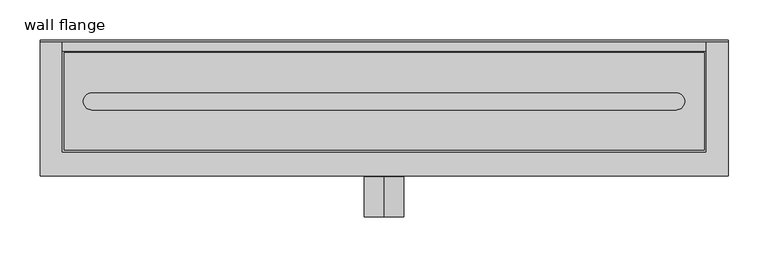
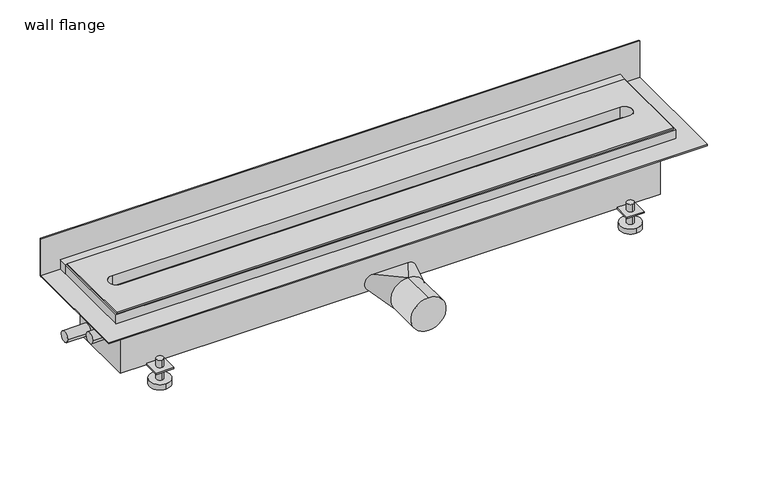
"""IFC4 building model written with IfcOpenShell, lengths in millimetres: sanitary terminal geometry, PF_ST_showerdrain X_Aco : wall flange."""

from ifc_helpers import new_model, si_unit, point, frame, frame_2d, origin, origin_with_axes, place, context, project, spatial, polyline, circle_curve, trimmed, segment, composite_curve, outline, extrude, faceted_brep, source, transform, mapped, element, save
from ifc_brep_helpers import plane_surface, cylinder_surface, spline_surface, advanced_brep


def wall_flange_291a86f9(model_context):
    return source(origin(), model_context, "Body", "SolidModel", [
        advanced_brep(
        [(-338.0, 67.0, -73.0), (-338.0, 57.0, -73.0), (-338.0, 77.0, -111.0), (-338.0, 47.0, -111.0), (-338.0, 67.0, -103.0), (-338.0, 57.0, -103.0), (-338.0, 77.0, -103.0), (-338.0, 47.0, -103.0)],
        [
            (0, 1, circle_curve(frame((-338.0, 62.0, -73.0), z_axis=(0.0, 0.0, 1.0), x_axis=(0.0, -1.0, 0.0)), 5.0)),
            (1, 0, circle_curve(frame((-338.0, 62.0, -73.0), z_axis=(0.0, 0.0, 1.0), x_axis=(0.0, -1.0, 0.0)), 5.0)),
            (2, 3, circle_curve(frame((-338.0, 62.0, -111.0), z_axis=(0.0, 0.0, -1.0), x_axis=(0.0, -1.0, 0.0)), 15.0)),
            (3, 2, circle_curve(frame((-338.0, 62.0, -111.0), z_axis=(0.0, 0.0, -1.0), x_axis=(0.0, -1.0, 0.0)), 15.0)),
            (0, 4),
            (4, 5, circle_curve(frame((-338.0, 62.0, -103.0), z_axis=(0.0, 0.0, 1.0), x_axis=(0.0, -1.0, 0.0)), 5.0)),
            (5, 1),
            (5, 4, circle_curve(frame((-338.0, 62.0, -103.0), z_axis=(0.0, 0.0, 1.0), x_axis=(0.0, -1.0, 0.0)), 5.0)),
            (6, 7, circle_curve(frame((-338.0, 62.0, -103.0), z_axis=(0.0, 0.0, 1.0), x_axis=(0.0, -1.0, 0.0)), 15.0)),
            (7, 6, circle_curve(frame((-338.0, 62.0, -103.0), z_axis=(0.0, 0.0, 1.0), x_axis=(0.0, -1.0, 0.0)), 15.0)),
            (6, 2),
            (3, 7),
        ],
        [
            plane_surface(frame((-338.0, 57.0, -73.0), z_axis=(0.0, 0.0, 1.0), x_axis=(1.0, 0.0, 0.0))),
            plane_surface(frame((-338.0, 57.0, -111.0), z_axis=(0.0, 0.0, -1.0), x_axis=(-1.0, 0.0, 0.0))),
            cylinder_surface(frame((-338.0, 62.0, -111.0), z_axis=(0.0, 0.0, 1.0), x_axis=(0.0, -1.0, 0.0)), 5.0),
            plane_surface(frame((-338.0, 47.0, -103.0), z_axis=(0.0, 0.0, 1.0), x_axis=(1.0, 0.0, 0.0))),
            cylinder_surface(frame((-338.0, 62.0, -111.0), z_axis=(0.0, 0.0, 1.0), x_axis=(0.0, -1.0, 0.0)), 15.0),
        ],
        [
            (0, [[1, 2]]),
            (1, [[3, 4]]),
            (2, [[-1, 5, 6, 7]]),
            (2, [[-2, -7, 8, -5]]),
            (3, [[9, 10], [-6, -8]]),
            (4, [[-9, 11, -4, 12]]),
            (4, [[-10, -12, -3, -11]]),
        ],
    ),
        advanced_brep(
        [(-338.0, -56.5, -73.0), (-338.0, -66.5, -73.0), (-338.0, -46.5, -111.0), (-338.0, -76.5, -111.0), (-338.0, -56.5, -103.0), (-338.0, -66.5, -103.0), (-338.0, -46.5, -103.0), (-338.0, -76.5, -103.0)],
        [
            (0, 1, circle_curve(frame((-338.0, -61.5, -73.0), z_axis=(0.0, 0.0, 1.0), x_axis=(0.0, -1.0, 0.0)), 5.0)),
            (1, 0, circle_curve(frame((-338.0, -61.5, -73.0), z_axis=(0.0, 0.0, 1.0), x_axis=(0.0, -1.0, 0.0)), 5.0)),
            (2, 3, circle_curve(frame((-338.0, -61.5, -111.0), z_axis=(0.0, 0.0, -1.0), x_axis=(0.0, -1.0, 0.0)), 15.0)),
            (3, 2, circle_curve(frame((-338.0, -61.5, -111.0), z_axis=(0.0, 0.0, -1.0), x_axis=(0.0, -1.0, 0.0)), 15.0)),
            (0, 4),
            (4, 5, circle_curve(frame((-338.0, -61.5, -103.0), z_axis=(0.0, 0.0, 1.0), x_axis=(0.0, -1.0, 0.0)), 5.0)),
            (5, 1),
            (5, 4, circle_curve(frame((-338.0, -61.5, -103.0), z_axis=(0.0, 0.0, 1.0), x_axis=(0.0, -1.0, 0.0)), 5.0)),
            (6, 7, circle_curve(frame((-338.0, -61.5, -103.0), z_axis=(0.0, 0.0, 1.0), x_axis=(0.0, -1.0, 0.0)), 15.0)),
            (7, 6, circle_curve(frame((-338.0, -61.5, -103.0), z_axis=(0.0, 0.0, 1.0), x_axis=(0.0, -1.0, 0.0)), 15.0)),
            (6, 2),
            (3, 7),
        ],
        [
            plane_surface(frame((-338.0, 57.0, -73.0), z_axis=(0.0, 0.0, 1.0), x_axis=(1.0, 0.0, 0.0))),
            plane_surface(frame((-338.0, 57.0, -111.0), z_axis=(0.0, 0.0, -1.0), x_axis=(-1.0, 0.0, 0.0))),
            cylinder_surface(frame((-338.0, -61.5, -111.0), z_axis=(0.0, 0.0, 1.0), x_axis=(0.0, -1.0, 0.0)), 5.0),
            plane_surface(frame((-338.0, 47.0, -103.0), z_axis=(0.0, 0.0, 1.0), x_axis=(1.0, 0.0, 0.0))),
            cylinder_surface(frame((-338.0, -61.5, -111.0), z_axis=(0.0, 0.0, 1.0), x_axis=(0.0, -1.0, 0.0)), 15.0),
        ],
        [
            (0, [[1, 2]]),
            (1, [[3, 4]]),
            (2, [[-1, 5, 6, 7]]),
            (2, [[-2, -7, 8, -5]]),
            (3, [[9, 10], [-6, -8]]),
            (4, [[-9, 11, -4, 12]]),
            (4, [[-10, -12, -3, -11]]),
        ],
    ),
        advanced_brep(
        [(338.0, 67.0, -73.0), (338.0, 57.0, -73.0), (338.0, 77.0, -111.0), (338.0, 47.0, -111.0), (338.0, 67.0, -103.0), (338.0, 57.0, -103.0), (338.0, 77.0, -103.0), (338.0, 47.0, -103.0)],
        [
            (0, 1, circle_curve(frame((338.0, 62.0, -73.0), z_axis=(0.0, 0.0, 1.0), x_axis=(0.0, -1.0, 0.0)), 5.0)),
            (1, 0, circle_curve(frame((338.0, 62.0, -73.0), z_axis=(0.0, 0.0, 1.0), x_axis=(0.0, -1.0, 0.0)), 5.0)),
            (2, 3, circle_curve(frame((338.0, 62.0, -111.0), z_axis=(0.0, 0.0, -1.0), x_axis=(0.0, -1.0, 0.0)), 15.0)),
            (3, 2, circle_curve(frame((338.0, 62.0, -111.0), z_axis=(0.0, 0.0, -1.0), x_axis=(0.0, -1.0, 0.0)), 15.0)),
            (0, 4),
            (4, 5, circle_curve(frame((338.0, 62.0, -103.0), z_axis=(0.0, 0.0, 1.0), x_axis=(0.0, -1.0, 0.0)), 5.0)),
            (5, 1),
            (5, 4, circle_curve(frame((338.0, 62.0, -103.0), z_axis=(0.0, 0.0, 1.0), x_axis=(0.0, -1.0, 0.0)), 5.0)),
            (6, 7, circle_curve(frame((338.0, 62.0, -103.0), z_axis=(0.0, 0.0, 1.0), x_axis=(0.0, -1.0, 0.0)), 15.0)),
            (7, 6, circle_curve(frame((338.0, 62.0, -103.0), z_axis=(0.0, 0.0, 1.0), x_axis=(0.0, -1.0, 0.0)), 15.0)),
            (6, 2),
            (3, 7),
        ],
        [
            plane_surface(frame((-338.0, 57.0, -73.0), z_axis=(0.0, 0.0, 1.0), x_axis=(1.0, 0.0, 0.0))),
            plane_surface(frame((-338.0, 57.0, -111.0), z_axis=(0.0, 0.0, -1.0), x_axis=(-1.0, 0.0, 0.0))),
            cylinder_surface(frame((338.0, 62.0, -111.0), z_axis=(0.0, 0.0, 1.0), x_axis=(0.0, -1.0, 0.0)), 5.0),
            plane_surface(frame((-338.0, 47.0, -103.0), z_axis=(0.0, 0.0, 1.0), x_axis=(1.0, 0.0, 0.0))),
            cylinder_surface(frame((338.0, 62.0, -111.0), z_axis=(0.0, 0.0, 1.0), x_axis=(0.0, -1.0, 0.0)), 15.0),
        ],
        [
            (0, [[1, 2]]),
            (1, [[3, 4]]),
            (2, [[-1, 5, 6, 7]]),
            (2, [[-2, -7, 8, -5]]),
            (3, [[9, 10], [-6, -8]]),
            (4, [[-9, 11, -4, 12]]),
            (4, [[-10, -12, -3, -11]]),
        ],
    ),
        advanced_brep(
        [(338.0, -56.5, -73.0), (338.0, -66.5, -73.0), (338.0, -46.5, -111.0), (338.0, -76.5, -111.0), (338.0, -56.5, -103.0), (338.0, -66.5, -103.0), (338.0, -46.5, -103.0), (338.0, -76.5, -103.0)],
        [
            (0, 1, circle_curve(frame((338.0, -61.5, -73.0), z_axis=(0.0, 0.0, 1.0), x_axis=(0.0, -1.0, 0.0)), 5.0)),
            (1, 0, circle_curve(frame((338.0, -61.5, -73.0), z_axis=(0.0, 0.0, 1.0), x_axis=(0.0, -1.0, 0.0)), 5.0)),
            (2, 3, circle_curve(frame((338.0, -61.5, -111.0), z_axis=(0.0, 0.0, -1.0), x_axis=(0.0, -1.0, 0.0)), 15.0)),
            (3, 2, circle_curve(frame((338.0, -61.5, -111.0), z_axis=(0.0, 0.0, -1.0), x_axis=(0.0, -1.0, 0.0)), 15.0)),
            (0, 4),
            (4, 5, circle_curve(frame((338.0, -61.5, -103.0), z_axis=(0.0, 0.0, 1.0), x_axis=(0.0, -1.0, 0.0)), 5.0)),
            (5, 1),
            (5, 4, circle_curve(frame((338.0, -61.5, -103.0), z_axis=(0.0, 0.0, 1.0), x_axis=(0.0, -1.0, 0.0)), 5.0)),
            (6, 7, circle_curve(frame((338.0, -61.5, -103.0), z_axis=(0.0, 0.0, 1.0), x_axis=(0.0, -1.0, 0.0)), 15.0)),
            (7, 6, circle_curve(frame((338.0, -61.5, -103.0), z_axis=(0.0, 0.0, 1.0), x_axis=(0.0, -1.0, 0.0)), 15.0)),
            (6, 2),
            (3, 7),
        ],
        [
            plane_surface(frame((-338.0, 57.0, -73.0), z_axis=(0.0, 0.0, 1.0), x_axis=(1.0, 0.0, 0.0))),
            plane_surface(frame((-338.0, 57.0, -111.0), z_axis=(0.0, 0.0, -1.0), x_axis=(-1.0, 0.0, 0.0))),
            cylinder_surface(frame((338.0, -61.5, -111.0), z_axis=(0.0, 0.0, 1.0), x_axis=(0.0, -1.0, 0.0)), 5.0),
            plane_surface(frame((-338.0, 47.0, -103.0), z_axis=(0.0, 0.0, 1.0), x_axis=(1.0, 0.0, 0.0))),
            cylinder_surface(frame((338.0, -61.5, -111.0), z_axis=(0.0, 0.0, 1.0), x_axis=(0.0, -1.0, 0.0)), 15.0),
        ],
        [
            (0, [[1, 2]]),
            (1, [[3, 4]]),
            (2, [[-1, 5, 6, 7]]),
            (2, [[-2, -7, 8, -5]]),
            (3, [[9, 10], [-6, -8]]),
            (4, [[-9, 11, -4, 12]]),
            (4, [[-10, -12, -3, -11]]),
        ],
    ),
        extrude(outline(polyline([(402.0, 75.0), (402.0, 63.0), (-402.0, 63.0), (-402.0, 75.0), (402.0, 75.0)])), frame((0.0, 0.0, 2.0), z_axis=(0.0, 0.0, 1.0), x_axis=(1.0, 0.0, 0.0)), (0.0, 0.0, 1.0), 14.0),
        extrude(outline(polyline([(430.0, 75.0), (-430.0, 75.0), (-430.0, 77.0), (430.0, 77.0), (430.0, 75.0)])), origin_with_axes(), (0.0, 0.0, 1.0), 57.0),
        advanced_brep(
        [(388.0, 50.0, -86.0), (388.0, -49.0, -86.0), (350.5, -49.0, -86.0), (350.5, -74.0, -86.0), (325.5, -74.0, -86.0), (325.5, -49.0, -86.0), (-325.5, -49.0, -86.0), (-325.5, -74.0, -86.0), (-350.5, -74.0, -86.0), (-350.5, -49.0, -86.0), (-388.0, -49.0, -86.0), (-388.0, 50.0, -86.0), (-350.5, 50.0, -86.0), (-350.5, 74.0, -86.0), (-325.5, 74.0, -86.0), (-325.5, 50.0, -86.0), (325.5, 50.0, -86.0), (325.5, 74.0, -86.0), (350.5, 74.0, -86.0), (350.5, 50.0, -86.0), (388.0, 50.0, -8.0), (-388.0, 50.0, -8.0), (-388.0, -49.0, -8.0), (388.0, -49.0, -8.0), (350.5, 50.0, -84.0), (325.5, 50.0, -84.0), (-325.5, 50.0, -84.0), (-350.5, 50.0, -84.0), (-388.0, 39.85, -68.0), (-388.0, 24.15, -68.0), (-388.0, -22.15, -32.0), (-388.0, -37.85, -32.0), (-350.5, -49.0, -84.0), (-325.5, -49.0, -84.0), (325.5, -49.0, -84.0), (350.5, -49.0, -84.0), (-421.0, 39.85, -68.0), (-421.0, 24.15, -68.0), (-421.0, -22.15, -32.0), (-421.0, -37.85, -32.0), (-325.5, 74.0, -84.0), (-350.5, 74.0, -84.0), (350.5, 74.0, -84.0), (325.5, 74.0, -84.0), (350.5, -74.0, -84.0), (325.5, -74.0, -84.0), (-350.5, -74.0, -84.0), (-325.5, -74.0, -84.0)],
        [
            (0, 1),
            (1, 2),
            (2, 3),
            (3, 4),
            (4, 5),
            (5, 6),
            (6, 7),
            (7, 8),
            (8, 9),
            (9, 10),
            (10, 11),
            (11, 12),
            (12, 13),
            (13, 14),
            (14, 15),
            (15, 16),
            (16, 17),
            (17, 18),
            (18, 19),
            (19, 0),
            (20, 21),
            (21, 22),
            (22, 23),
            (23, 20),
            (20, 0),
            (19, 24),
            (24, 25),
            (25, 16),
            (15, 26),
            (26, 27),
            (27, 12),
            (11, 21),
            (10, 22),
            (28, 29, circle_curve(frame((-388.0, 32.0, -68.0), z_axis=(1.0, 0.0, 0.0), x_axis=(0.0, -1.0, 0.0)), 7.85)),
            (29, 28, circle_curve(frame((-388.0, 32.0, -68.0), z_axis=(1.0, 0.0, 0.0), x_axis=(0.0, -1.0, 0.0)), 7.85)),
            (30, 31, circle_curve(frame((-388.0, -30.0, -32.0), z_axis=(1.0, 0.0, 0.0), x_axis=(0.0, -1.0, 0.0)), 7.85)),
            (31, 30, circle_curve(frame((-388.0, -30.0, -32.0), z_axis=(1.0, 0.0, 0.0), x_axis=(0.0, -1.0, 0.0)), 7.85)),
            (9, 32),
            (32, 33),
            (33, 6),
            (5, 34),
            (34, 35),
            (35, 2),
            (1, 23),
            (36, 37, circle_curve(frame((-421.0, 32.0, -68.0), z_axis=(-1.0, 0.0, 0.0), x_axis=(0.0, -1.0, 0.0)), 7.85)),
            (37, 36, circle_curve(frame((-421.0, 32.0, -68.0), z_axis=(-1.0, 0.0, 0.0), x_axis=(0.0, -1.0, 0.0)), 7.85)),
            (37, 29),
            (28, 36),
            (38, 39, circle_curve(frame((-421.0, -30.0, -32.0), z_axis=(-1.0, 0.0, 0.0), x_axis=(0.0, -1.0, 0.0)), 7.85)),
            (39, 38, circle_curve(frame((-421.0, -30.0, -32.0), z_axis=(-1.0, 0.0, 0.0), x_axis=(0.0, -1.0, 0.0)), 7.85)),
            (39, 31),
            (30, 38),
            (40, 41),
            (41, 27),
            (26, 40),
            (42, 43),
            (43, 25),
            (24, 42),
            (44, 35),
            (34, 45),
            (45, 44),
            (46, 47),
            (47, 33),
            (32, 46),
            (40, 14),
            (13, 41),
            (42, 18),
            (17, 43),
            (44, 3),
            (4, 45),
            (46, 8),
            (7, 47),
        ],
        [
            plane_surface(frame((-388.0, 50.0, -86.0), z_axis=(0.0, 0.0, -1.0), x_axis=(1.0, 0.0, 0.0))),
            plane_surface(frame((-388.0, 50.0, -8.0), z_axis=(0.0, 0.0, 1.0), x_axis=(-1.0, 0.0, 0.0))),
            plane_surface(frame((388.0, 50.0, -8.0), z_axis=(0.0, 1.0, 0.0), x_axis=(0.0, 0.0, -1.0))),
            plane_surface(frame((-388.0, 50.0, -8.0), z_axis=(-1.0, 0.0, 0.0), x_axis=(0.0, 0.0, -1.0))),
            plane_surface(frame((-388.0, -49.0, -8.0), z_axis=(0.0, -1.0, 0.0), x_axis=(0.0, 0.0, -1.0))),
            plane_surface(frame((388.0, -49.0, -8.0), z_axis=(1.0, 0.0, 0.0), x_axis=(0.0, 0.0, -1.0))),
            plane_surface(frame((-421.0, 32.0, -68.0), z_axis=(-1.0, 0.0, 0.0), x_axis=(0.0, 0.0, 1.0))),
            cylinder_surface(frame((0.0, 32.0, -68.0), z_axis=(1.0, 0.0, 0.0), x_axis=(0.0, -1.0, 0.0)), 7.85),
            plane_surface(frame((-421.0, -30.0, -32.0), z_axis=(-1.0, 0.0, 0.0), x_axis=(0.0, 0.0, 1.0))),
            cylinder_surface(frame((0.0, -30.0, -32.0), z_axis=(1.0, 0.0, 0.0), x_axis=(0.0, -1.0, 0.0)), 7.85),
            plane_surface(frame((-350.5, 74.0, -84.0), z_axis=(0.0, 0.0, 1.0), x_axis=(-1.0, 0.0, 0.0))),
            plane_surface(frame((-325.5, 74.0, -84.0), z_axis=(0.0, 1.0, 0.0), x_axis=(0.0, 0.0, -1.0))),
            plane_surface(frame((-350.5, 74.0, -84.0), z_axis=(-1.0, 0.0, 0.0), x_axis=(0.0, 0.0, -1.0))),
            plane_surface(frame((-325.5, 50.0, -84.0), z_axis=(1.0, 0.0, 0.0), x_axis=(0.0, 0.0, -1.0))),
            plane_surface(frame((350.5, 74.0, -84.0), z_axis=(0.0, 1.0, 0.0), x_axis=(0.0, 0.0, -1.0))),
            plane_surface(frame((325.5, 74.0, -84.0), z_axis=(-1.0, 0.0, 0.0), x_axis=(0.0, 0.0, -1.0))),
            plane_surface(frame((350.5, 50.0, -84.0), z_axis=(1.0, 0.0, 0.0), x_axis=(0.0, 0.0, -1.0))),
            plane_surface(frame((350.5, -74.0, -84.0), z_axis=(1.0, 0.0, 0.0), x_axis=(0.0, 0.0, -1.0))),
            plane_surface(frame((325.5, -49.0, -84.0), z_axis=(-1.0, 0.0, 0.0), x_axis=(0.0, 0.0, -1.0))),
            plane_surface(frame((325.5, -74.0, -84.0), z_axis=(0.0, -1.0, 0.0), x_axis=(0.0, 0.0, -1.0))),
            plane_surface(frame((-350.5, -74.0, -84.0), z_axis=(0.0, -1.0, 0.0), x_axis=(0.0, 0.0, -1.0))),
            plane_surface(frame((-325.5, -74.0, -84.0), z_axis=(1.0, 0.0, 0.0), x_axis=(0.0, 0.0, -1.0))),
            plane_surface(frame((-350.5, -49.0, -84.0), z_axis=(-1.0, 0.0, 0.0), x_axis=(0.0, 0.0, -1.0))),
        ],
        [
            (0, [[1, 2, 3, 4, 5, 6, 7, 8, 9, 10, 11, 12, 13, 14, 15, 16, 17, 18, 19, 20]]),
            (1, [[21, 22, 23, 24]]),
            (2, [[-21, 25, -20, 26, 27, 28, -16, 29, 30, 31, -12, 32]]),
            (3, [[-11, 33, -22, -32], [34, 35], [36, 37]]),
            (4, [[-23, -33, -10, 38, 39, 40, -6, 41, 42, 43, -2, 44]]),
            (5, [[-1, -25, -24, -44]]),
            (6, [[45, 46]]),
            (7, [[-46, 47, -34, 48]]),
            (7, [[-45, -48, -35, -47]]),
            (8, [[49, 50]]),
            (9, [[-50, 51, -36, 52]]),
            (9, [[-49, -52, -37, -51]]),
            (10, [[53, 54, -30, 55]]),
            (10, [[56, 57, -27, 58]]),
            (10, [[59, -42, 60, 61]]),
            (10, [[62, 63, -39, 64]]),
            (11, [[-53, 65, -14, 66]]),
            (12, [[-54, -66, -13, -31]]),
            (13, [[-55, -29, -15, -65]]),
            (14, [[-56, 67, -18, 68]]),
            (15, [[-57, -68, -17, -28]]),
            (16, [[-58, -26, -19, -67]]),
            (17, [[-59, 69, -3, -43]]),
            (18, [[-60, -41, -5, 70]]),
            (19, [[-61, -70, -4, -69]]),
            (20, [[-62, 71, -8, 72]]),
            (21, [[-63, -72, -7, -40]]),
            (22, [[-64, -38, -9, -71]]),
        ],
    ),
        extrude(outline(polyline([(400.0, 61.0), (400.0, -61.0), (-400.0, -61.0), (-400.0, 61.0), (400.0, 61.0)]), holes=[composite_curve([segment(polyline([(365.0860312, 10.6770786), (-365.0900069, 10.6770786)]), True, "CONTINUOUS"), segment(trimmed(circle_curve(frame_2d((-365.0900069, 0.0)), 10.6770786), [point((-365.0900069, 10.6770786))], [point((-365.0900069, -10.6770786))], True, "CARTESIAN"), True, "CONTINUOUS"), segment(polyline([(-365.0900069, -10.6770786), (365.0860312, -10.6770786)]), True, "CONTINUOUS"), segment(trimmed(circle_curve(frame_2d((365.0860312, 0.0)), 10.6770786), [point((365.0860312, -10.6770786))], [point((365.0860312, 10.6770786))], True, "CARTESIAN"), True, "CONTINUOUS")], self_intersect=False)]), origin_with_axes(), (0.0, 0.0, 1.0), 18.0),
        advanced_brep(
        [(0.0, -144.5, -99.0), (0.0, -144.5, -49.0), (0.0, -94.5, -99.0), (13.0, -94.5, -95.3541565), (13.0005627, -94.5, -52.6461861), (0.0, -94.5, -49.0), (-13.0, -94.5, -52.6458435), (-13.0, -94.5, -95.3541565), (25.0, -50.0, -86.0), (-25.0, -50.0, -86.0), (-25.0, -50.0, -62.0), (25.0, -50.0, -62.0)],
        [
            (0, 1, circle_curve(frame((0.0, -144.5, -74.0), z_axis=(0.0, -1.0, 0.0), x_axis=(0.0, 0.0, 1.0)), 25.0)),
            (1, 0, circle_curve(frame((0.0, -144.5, -74.0), z_axis=(0.0, -1.0, 0.0), x_axis=(0.0, 0.0, 1.0)), 25.0)),
            (0, 2),
            (2, 3, circle_curve(frame((0.0, -94.5, -74.0), z_axis=(0.0, -1.0, 0.0), x_axis=(0.0, 0.0, 1.0)), 25.0)),
            (3, 4, circle_curve(frame((0.0, -94.5, -74.0), z_axis=(0.0, -1.0, 0.0), x_axis=(0.0, 0.0, 1.0)), 25.0)),
            (4, 5, circle_curve(frame((0.0, -94.5, -74.0), z_axis=(0.0, -1.0, 0.0), x_axis=(0.0, 0.0, 1.0)), 25.0)),
            (5, 1),
            (5, 6, circle_curve(frame((0.0, -94.5, -74.0), z_axis=(0.0, -1.0, 0.0), x_axis=(0.0, 0.0, 1.0)), 25.0)),
            (6, 7, circle_curve(frame((0.0, -94.5, -74.0), z_axis=(0.0, -1.0, 0.0), x_axis=(0.0, 0.0, 1.0)), 25.0)),
            (7, 2, circle_curve(frame((0.0, -94.5, -74.0), z_axis=(0.0, -1.0, 0.0), x_axis=(0.0, 0.0, 1.0)), 25.0)),
            (8, 9),
            (9, 10, circle_curve(frame((-25.0, -50.0, -74.0), z_axis=(0.0, 1.0, 0.0), x_axis=(0.0, 0.0, 1.0)), 12.0)),
            (10, 11),
            (11, 8, circle_curve(frame((25.0, -50.0, -74.0), z_axis=(0.0, 1.0, 0.0), x_axis=(0.0, 0.0, 1.0)), 12.0)),
            (8, 2),
            (2, 9),
            (5, 10),
            (5, 11),
        ],
        [
            plane_surface(frame((0.0, -144.5, -74.0), z_axis=(0.0, -1.0, 0.0), x_axis=(1.0, 0.0, 0.0))),
            cylinder_surface(frame((0.0, -144.5, -74.0), z_axis=(0.0, -1.0, 0.0), x_axis=(0.0, 0.0, 1.0)), 25.0),
            plane_surface(frame((0.0, -50.0, -74.0), z_axis=(0.0, 1.0, 0.0), x_axis=(-1.0, 0.0, 0.0))),
            plane_surface(frame((0.0, -94.5, -99.0), z_axis=(0.0, 0.2804141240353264, -0.9598791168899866), x_axis=(-1.0, 0.0, 0.0))),
            spline_surface(2, 1, [[(0.0, -94.5, -99.0), (-25.0, -50.0, -86.0)], [(-25.0, -94.5, -99.0), (-37.0, -50.0, -86.0)], [(-25.0, -94.5, -74.0), (-37.0, -50.0, -74.0)], [(-25.0, -94.5, -49.0), (-37.0, -50.0, -62.0)], [(0.0, -94.5, -49.0), (-25.0, -50.0, -62.0)]], [3, 2, 3], [2, 2], [0.0, 1.0, 2.0], [0.0, 1.0], weights=[[1.0, 1.0], [0.7071067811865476, 0.7071067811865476], [1.0, 1.0], [0.7071067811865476, 0.7071067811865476], [1.0, 1.0]]),
            plane_surface(frame((0.0, -94.5, -49.0), z_axis=(0.0, 0.2804141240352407, 0.9598791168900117), x_axis=(1.0, 0.0, 0.0))),
            spline_surface(2, 1, [[(0.0, -94.5, -49.0), (25.0, -50.0, -62.0)], [(25.0, -94.5, -49.0), (37.0, -50.0, -62.0)], [(25.0, -94.5, -74.0), (37.0, -50.0, -74.0)], [(25.0, -94.5, -99.0), (37.0, -50.0, -86.0)], [(0.0, -94.5, -99.0), (25.0, -50.0, -86.0)]], [3, 2, 3], [2, 2], [0.0, 1.0, 2.0], [0.0, 1.0], weights=[[1.0, 1.0], [0.7071067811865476, 0.7071067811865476], [1.0, 1.0], [0.7071067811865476, 0.7071067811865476], [1.0, 1.0]]),
        ],
        [
            (0, [[1, 2]]),
            (1, [[-1, 3, 4, 5, 6, 7]]),
            (1, [[-2, -7, 8, 9, 10, -3]]),
            (2, [[11, 12, 13, 14]]),
            (3, [[-11, 15, 16]]),
            (4, [[-12, -16, -10, -9, -8, 17]]),
            (5, [[-13, -17, 18]]),
            (6, [[-14, -18, -6, -5, -4, -15]]),
        ],
    ),
        extrude(outline(polyline([(430.0, 77.0), (430.0, -93.0), (-430.0, -93.0), (-430.0, 77.0), (430.0, 77.0)])), origin_with_axes(), (0.0, 0.0, 1.0), 2.0),
        faceted_brep([(402.0, 63.0, 16.0), (-402.0, 63.0, 16.0), (-402.0, -63.0, 16.0), (402.0, -63.0, 16.0), (-400.0, 61.0, 16.0), (400.0, 61.0, 16.0), (400.0, -61.0, 16.0), (-400.0, -61.0, 16.0), (402.0, 63.0, -8.0), (402.0, -63.0, -8.0), (-402.0, -63.0, -8.0), (-402.0, 63.0, -8.0), (400.0, 61.0, -6.0), (-400.0, 61.0, -6.0), (-400.0, -61.0, -6.0), (400.0, -61.0, -6.0)], [[[0, 1, 2, 3], [4, 5, 6, 7]], [[8, 9, 10, 11]], [[1, 0, 8, 11]], [[2, 1, 11, 10]], [[3, 2, 10, 9]], [[0, 3, 9, 8]], [[12, 13, 14, 15]], [[13, 12, 5, 4]], [[14, 13, 4, 7]], [[15, 14, 7, 6]], [[12, 15, 6, 5]]]),
    ])


if __name__ == "__main__":
    model = new_model("IFC4")
    model_context = context("Model", 3, world=origin())
    ifc_project = project(units=[si_unit("LENGTHUNIT", "METRE", prefix="MILLI")], contexts=[model_context])
    site = spatial("IfcSite", under=ifc_project)
    building = spatial("IfcBuilding", under=site)
    placement = place(None, origin())
    wall_flange_shape = wall_flange_291a86f9(model_context)
    element("IfcSanitaryTerminal", 1, ObjectType="PF_ST_showerdrain X_Aco : wall flange", at=placement, inside=building, context=model_context, shape_type="MappedRepresentation", body=[
        mapped(wall_flange_shape, transform((0.0, 0.0, 0.0), x_axis=(1.0, 0.0, 0.0), y_axis=(0.0, 1.0, 0.0), z_axis=(0.0, 0.0, 1.0))),
    ])
    save(model, "model.ifc")
